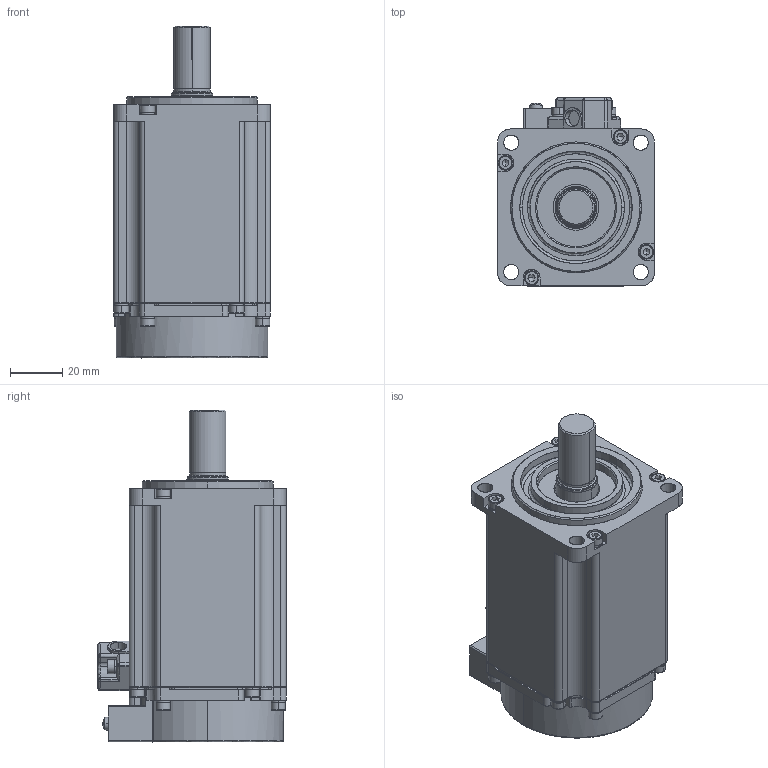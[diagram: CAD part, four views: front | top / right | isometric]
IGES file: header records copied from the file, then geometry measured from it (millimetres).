
Start section: SolidWorks IGES file using analytic representation for surfaces
Global section: file name: C:\景翔\圖面\20200518_SMESMP  馬達尺寸錯誤修正\(NEW)自行修改\3D-IGS\SME-H040.IGS; native system: SolidWorks 2016; preprocessor: SolidWorks 2016; author: 13521; date: 200518.162812; units: millimetre
Bounding box: 60 x 72 x 127 mm (x, y, z)
Surface area: 62290 mm2 (no closed solid volume)
Topology: 0 solids, 0 shells, 943 faces, 12989 edges, 12913 vertices
Faces by surface type: revolution 507, bspline 436
